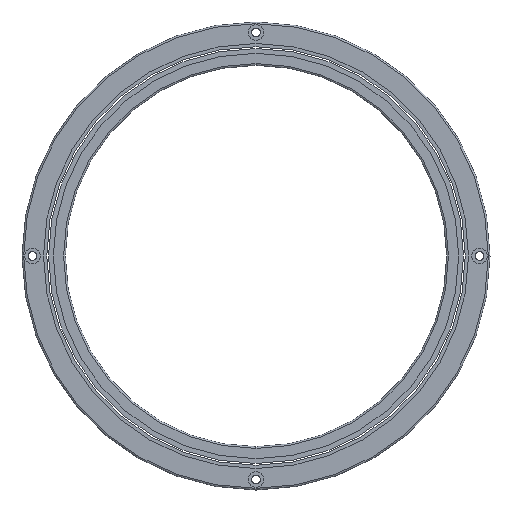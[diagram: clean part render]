
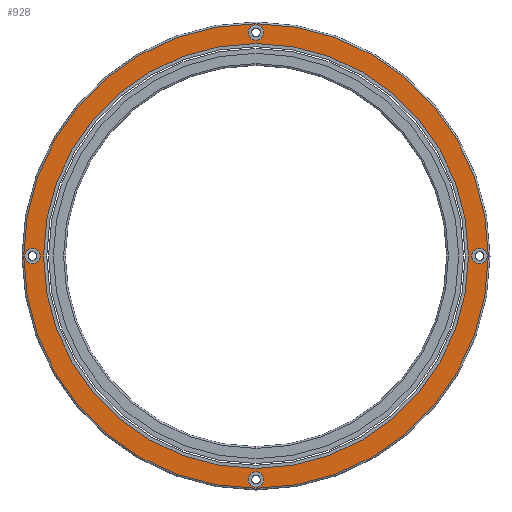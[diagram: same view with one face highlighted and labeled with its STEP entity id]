
A CAD part, front view. The second image highlights one B-rep face of the part: STEP entity #928.
In plain terms, the highlighted planar face has unit normal (0, -1, 0).
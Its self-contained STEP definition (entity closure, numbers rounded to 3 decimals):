
#43=CARTESIAN_POINT('',(0.,0.,0.));
#44=DIRECTION('',(0.,-1.,0.));
#45=DIRECTION('',(-1.,0.,0.));
#46=AXIS2_PLACEMENT_3D('',#43,#44,#45);
#48=CARTESIAN_POINT('',(0.,0.,0.));
#49=DIRECTION('',(0.,1.,0.));
#50=DIRECTION('',(-1.,0.,0.));
#51=AXIS2_PLACEMENT_3D('',#48,#49,#50);
#53=CARTESIAN_POINT('',(-64.5,0.,0.));
#54=DIRECTION('',(0.,1.,0.));
#55=DIRECTION('',(1.,0.,0.));
#56=AXIS2_PLACEMENT_3D('',#53,#54,#55);
#58=CARTESIAN_POINT('',(-64.5,0.,0.));
#59=DIRECTION('',(0.,1.,0.));
#60=DIRECTION('',(-1.,0.,0.));
#61=AXIS2_PLACEMENT_3D('',#58,#59,#60);
#63=CARTESIAN_POINT('',(0.,0.,64.5));
#64=DIRECTION('',(0.,1.,0.));
#65=DIRECTION('',(0.,0.,-1.));
#66=AXIS2_PLACEMENT_3D('',#63,#64,#65);
#68=CARTESIAN_POINT('',(0.,0.,64.5));
#69=DIRECTION('',(0.,1.,0.));
#70=DIRECTION('',(0.,0.,1.));
#71=AXIS2_PLACEMENT_3D('',#68,#69,#70);
#73=CARTESIAN_POINT('',(64.5,0.,0.));
#74=DIRECTION('',(0.,1.,0.));
#75=DIRECTION('',(-1.,0.,0.));
#76=AXIS2_PLACEMENT_3D('',#73,#74,#75);
#78=CARTESIAN_POINT('',(64.5,0.,0.));
#79=DIRECTION('',(0.,1.,0.));
#80=DIRECTION('',(1.,0.,0.));
#81=AXIS2_PLACEMENT_3D('',#78,#79,#80);
#83=CARTESIAN_POINT('',(0.,0.,-64.5));
#84=DIRECTION('',(0.,1.,0.));
#85=DIRECTION('',(0.,0.,1.));
#86=AXIS2_PLACEMENT_3D('',#83,#84,#85);
#88=CARTESIAN_POINT('',(0.,0.,-64.5));
#89=DIRECTION('',(0.,1.,0.));
#90=DIRECTION('',(0.,0.,-1.));
#91=AXIS2_PLACEMENT_3D('',#88,#89,#90);
#93=CARTESIAN_POINT('',(0.,0.,0.));
#94=DIRECTION('',(0.,1.,0.));
#95=DIRECTION('',(-1.,0.,0.));
#96=AXIS2_PLACEMENT_3D('',#93,#94,#95);
#98=CARTESIAN_POINT('',(0.,0.,0.));
#99=DIRECTION('',(0.,1.,0.));
#100=DIRECTION('',(1.,0.,0.));
#101=AXIS2_PLACEMENT_3D('',#98,#99,#100);
#751=CARTESIAN_POINT('',(-62.25,0.,0.));
#752=VERTEX_POINT('',#751);
#753=CARTESIAN_POINT('',(-66.75,0.,0.));
#754=VERTEX_POINT('',#753);
#763=CARTESIAN_POINT('',(0.,0.,62.25));
#764=VERTEX_POINT('',#763);
#765=CARTESIAN_POINT('',(0.,0.,66.75));
#766=VERTEX_POINT('',#765);
#775=CARTESIAN_POINT('',(62.25,0.,0.));
#776=VERTEX_POINT('',#775);
#777=CARTESIAN_POINT('',(66.75,0.,0.));
#778=VERTEX_POINT('',#777);
#787=CARTESIAN_POINT('',(0.,0.,-62.25));
#788=VERTEX_POINT('',#787);
#789=CARTESIAN_POINT('',(0.,0.,-66.75));
#790=VERTEX_POINT('',#789);
#808=CARTESIAN_POINT('',(-61.3,0.,0.));
#810=VERTEX_POINT('',#808);
#812=CARTESIAN_POINT('',(61.3,0.,0.));
#814=VERTEX_POINT('',#812);
#827=CARTESIAN_POINT('',(-67.,0.,0.));
#828=CARTESIAN_POINT('',(67.,0.,0.));
#829=VERTEX_POINT('',#827);
#830=VERTEX_POINT('',#828);
#889=CARTESIAN_POINT('',(0.,0.,0.));
#890=DIRECTION('',(0.,1.,0.));
#891=DIRECTION('',(1.,0.,0.));
#892=AXIS2_PLACEMENT_3D('',#889,#890,#891);
#893=PLANE('',#892);
#895=ORIENTED_EDGE('',*,*,#894,.T.);
#897=ORIENTED_EDGE('',*,*,#896,.T.);
#898=EDGE_LOOP('',(#895,#897));
#899=FACE_OUTER_BOUND('',#898,.F.);
#900=ORIENTED_EDGE('',*,*,#868,.F.);
#901=ORIENTED_EDGE('',*,*,#884,.F.);
#902=EDGE_LOOP('',(#900,#901));
#903=FACE_BOUND('',#902,.F.);
#905=ORIENTED_EDGE('',*,*,#904,.F.);
#907=ORIENTED_EDGE('',*,*,#906,.F.);
#908=EDGE_LOOP('',(#905,#907));
#909=FACE_BOUND('',#908,.F.);
#911=ORIENTED_EDGE('',*,*,#910,.F.);
#913=ORIENTED_EDGE('',*,*,#912,.F.);
#914=EDGE_LOOP('',(#911,#913));
#915=FACE_BOUND('',#914,.F.);
#917=ORIENTED_EDGE('',*,*,#916,.F.);
#919=ORIENTED_EDGE('',*,*,#918,.F.);
#920=EDGE_LOOP('',(#917,#919));
#921=FACE_BOUND('',#920,.F.);
#923=ORIENTED_EDGE('',*,*,#922,.T.);
#925=ORIENTED_EDGE('',*,*,#924,.F.);
#926=EDGE_LOOP('',(#923,#925));
#927=FACE_BOUND('',#926,.F.);
#47=CIRCLE('',#46,61.3);
#52=CIRCLE('',#51,61.3);
#57=CIRCLE('',#56,2.25);
#62=CIRCLE('',#61,2.25);
#67=CIRCLE('',#66,2.25);
#72=CIRCLE('',#71,2.25);
#77=CIRCLE('',#76,2.25);
#82=CIRCLE('',#81,2.25);
#87=CIRCLE('',#86,2.25);
#92=CIRCLE('',#91,2.25);
#97=CIRCLE('',#96,67.);
#102=CIRCLE('',#101,67.);
#868=EDGE_CURVE('',#752,#754,#57,.T.);
#884=EDGE_CURVE('',#754,#752,#62,.T.);
#894=EDGE_CURVE('',#829,#830,#97,.T.);
#896=EDGE_CURVE('',#830,#829,#102,.T.);
#904=EDGE_CURVE('',#764,#766,#67,.T.);
#906=EDGE_CURVE('',#766,#764,#72,.T.);
#910=EDGE_CURVE('',#776,#778,#77,.T.);
#912=EDGE_CURVE('',#778,#776,#82,.T.);
#916=EDGE_CURVE('',#788,#790,#87,.T.);
#918=EDGE_CURVE('',#790,#788,#92,.T.);
#922=EDGE_CURVE('',#810,#814,#47,.T.);
#924=EDGE_CURVE('',#810,#814,#52,.T.);
#928=ADVANCED_FACE('',(#899,#903,#909,#915,#921,#927),#893,.F.);
